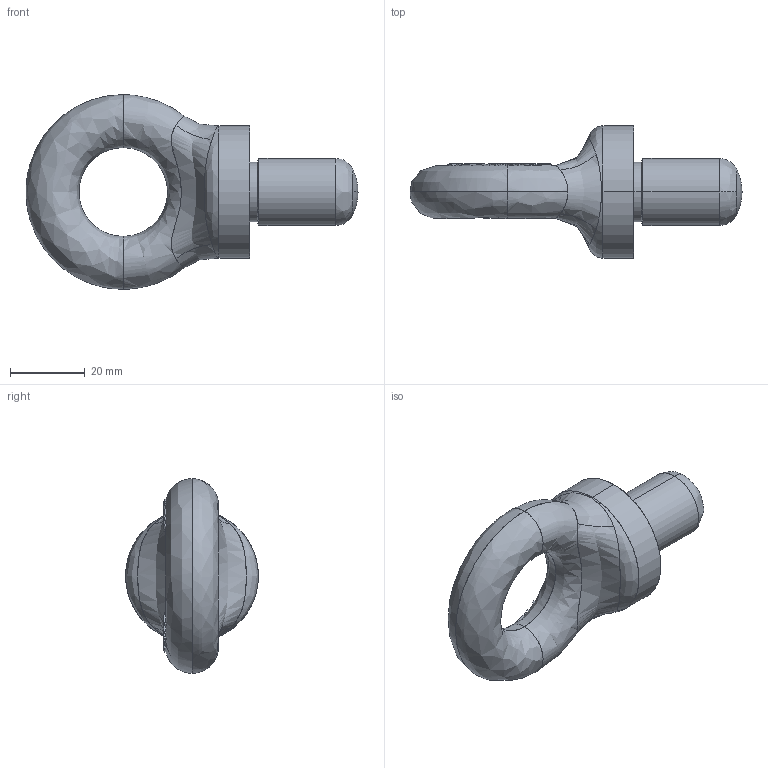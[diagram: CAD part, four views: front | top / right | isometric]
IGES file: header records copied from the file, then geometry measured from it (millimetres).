
Start section: SolidWorks IGES FILE using analytic representation for surfaces
Global section: file name: C:\Documents and Settings\Townley Workstation\Desktop\tooling\Townley products\Eye bolts\EBB625\Model\Finished part drawings\EBB625 Finished part.IGS; native system: SolidWorks 2004 by SolidWorks Corporation; preprocessor: Version 5.3; author: Townley Workstation; date: 091119.135324; units: millimetre
Bounding box: 89.09 x 35.6 x 52.2 mm (x, y, z)
Surface area: 9211.1 mm2 (no closed solid volume)
Topology: 0 solids, 0 shells, 224 faces, 2756 edges, 2756 vertices
Faces by surface type: bspline 214, revolution 10
